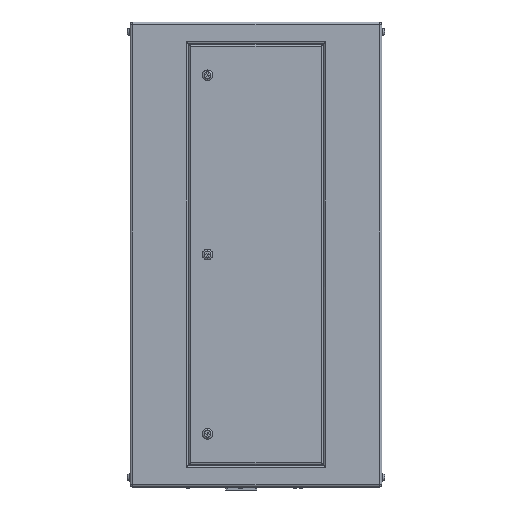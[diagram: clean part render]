
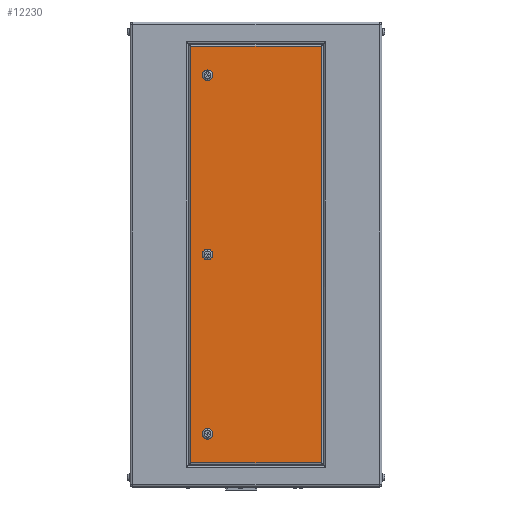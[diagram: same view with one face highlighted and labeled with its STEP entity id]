
A CAD part, left-side view. The second image highlights one B-rep face of the part: STEP entity #12230.
In plain terms, the highlighted planar face has unit normal (-1, 0, 0).
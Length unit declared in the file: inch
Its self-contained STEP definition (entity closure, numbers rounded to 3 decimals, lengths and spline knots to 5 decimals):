
#215 = DIRECTION ( 'NONE',  ( 0., 0., -1. ) ) ;
#285 = LINE ( 'NONE', #8943, #36826 ) ;
#709 = AXIS2_PLACEMENT_3D ( 'NONE', #36921, #37294, #31569 ) ;
#849 = LINE ( 'NONE', #6880, #24059 ) ;
#1114 = DIRECTION ( 'NONE',  ( 0., 0., -1. ) ) ;
#1353 = CARTESIAN_POINT ( 'NONE',  ( -16., 13., -24. ) ) ;
#1438 = CARTESIAN_POINT ( 'NONE',  ( -16., -6.74, -24. ) ) ;
#2791 = CARTESIAN_POINT ( 'NONE',  ( -16., 5., 19.05 ) ) ;
#3150 = ORIENTED_EDGE ( 'NONE', *, *, #20748, .T. ) ;
#3187 = CARTESIAN_POINT ( 'NONE',  ( -16., 5., -0.55 ) ) ;
#3572 = CARTESIAN_POINT ( 'NONE',  ( -16., 5., 18.5 ) ) ;
#3978 = FACE_BOUND ( 'NONE', #27808, .T. ) ;
#4074 = EDGE_CURVE ( 'NONE', #35686, #17961, #25077, .T. ) ;
#6880 = CARTESIAN_POINT ( 'NONE',  ( -16., 6.74, -24. ) ) ;
#7047 = CARTESIAN_POINT ( 'NONE',  ( -16., 5., -19.05 ) ) ;
#7258 = VERTEX_POINT ( 'NONE', #3187 ) ;
#7552 = FACE_OUTER_BOUND ( 'NONE', #18418, .T. ) ;
#7561 = VERTEX_POINT ( 'NONE', #26717 ) ;
#7580 = AXIS2_PLACEMENT_3D ( 'NONE', #1353, #30233, #24742 ) ;
#8943 = CARTESIAN_POINT ( 'NONE',  ( -16., 13., -21.49 ) ) ;
#9982 = AXIS2_PLACEMENT_3D ( 'NONE', #31897, #25646, #20006 ) ;
#10016 = ORIENTED_EDGE ( 'NONE', *, *, #11445, .T. ) ;
#10608 = VECTOR ( 'NONE', #30751, 39.37008 ) ;
#11400 = DIRECTION ( 'NONE',  ( 0., 0., -1. ) ) ;
#11445 = EDGE_CURVE ( 'NONE', #7258, #7561, #18789, .T. ) ;
#11902 = CARTESIAN_POINT ( 'NONE',  ( -16., 5., -18.5 ) ) ;
#12230 = ADVANCED_FACE ( 'NONE', ( #18903, #3978, #21180, #7552 ), #27513, .F. ) ;
#13292 = EDGE_CURVE ( 'NONE', #30053, #33088, #14834, .T. ) ;
#14556 = DIRECTION ( 'NONE',  ( 1., 0., 0. ) ) ;
#14785 = EDGE_CURVE ( 'NONE', #31006, #26268, #285, .T. ) ;
#14834 = CIRCLE ( 'NONE', #33502, 0.55 ) ;
#15066 = CARTESIAN_POINT ( 'NONE',  ( -16., 6.74, -21.49 ) ) ;
#15523 = ORIENTED_EDGE ( 'NONE', *, *, #29998, .T. ) ;
#15626 = LINE ( 'NONE', #1438, #30478 ) ;
#15673 = DIRECTION ( 'NONE',  ( 1., 0., 0. ) ) ;
#17320 = CARTESIAN_POINT ( 'NONE',  ( -16., 6.74, 21.49 ) ) ;
#17392 = ORIENTED_EDGE ( 'NONE', *, *, #32631, .T. ) ;
#17961 = VERTEX_POINT ( 'NONE', #17320 ) ;
#18418 = EDGE_LOOP ( 'NONE', ( #32842, #22288, #30512, #17392 ) ) ;
#18607 = CARTESIAN_POINT ( 'NONE',  ( -16., 5., 17.95 ) ) ;
#18789 = CIRCLE ( 'NONE', #709, 0.55 ) ;
#18903 = FACE_BOUND ( 'NONE', #19692, .T. ) ;
#19646 = CIRCLE ( 'NONE', #9982, 0.55 ) ;
#19692 = EDGE_LOOP ( 'NONE', ( #25012, #3150 ) ) ;
#19786 = AXIS2_PLACEMENT_3D ( 'NONE', #3572, #14556, #23216 ) ;
#20006 = DIRECTION ( 'NONE',  ( 0., 0., -1. ) ) ;
#20119 = CIRCLE ( 'NONE', #33420, 0.55 ) ;
#20275 = DIRECTION ( 'NONE',  ( 1., 0., 0. ) ) ;
#20748 = EDGE_CURVE ( 'NONE', #33088, #30053, #19646, .T. ) ;
#20817 = CIRCLE ( 'NONE', #30456, 0.55 ) ;
#21180 = FACE_BOUND ( 'NONE', #34494, .T. ) ;
#21264 = DIRECTION ( 'NONE',  ( 0., 0., 1. ) ) ;
#21870 = EDGE_CURVE ( 'NONE', #26268, #35686, #15626, .T. ) ;
#22288 = ORIENTED_EDGE ( 'NONE', *, *, #21870, .T. ) ;
#22317 = EDGE_CURVE ( 'NONE', #35308, #28655, #20817, .T. ) ;
#23099 = CARTESIAN_POINT ( 'NONE',  ( -16., 5., 0. ) ) ;
#23216 = DIRECTION ( 'NONE',  ( 0., 0., -1. ) ) ;
#23934 = ORIENTED_EDGE ( 'NONE', *, *, #22317, .T. ) ;
#24059 = VECTOR ( 'NONE', #35638, 39.37008 ) ;
#24353 = CARTESIAN_POINT ( 'NONE',  ( -16., 13., 21.49 ) ) ;
#24492 = ORIENTED_EDGE ( 'NONE', *, *, #33161, .T. ) ;
#24742 = DIRECTION ( 'NONE',  ( 0., 0., -1. ) ) ;
#25012 = ORIENTED_EDGE ( 'NONE', *, *, #13292, .T. ) ;
#25077 = LINE ( 'NONE', #24353, #10608 ) ;
#25646 = DIRECTION ( 'NONE',  ( 1., 0., 0. ) ) ;
#26268 = VERTEX_POINT ( 'NONE', #31257 ) ;
#26717 = CARTESIAN_POINT ( 'NONE',  ( -16., 5., 0.55 ) ) ;
#27513 = PLANE ( 'NONE',  #7580 ) ;
#27570 = CIRCLE ( 'NONE', #19786, 0.55 ) ;
#27808 = EDGE_LOOP ( 'NONE', ( #10016, #15523 ) ) ;
#28073 = CARTESIAN_POINT ( 'NONE',  ( -16., 5., -17.95 ) ) ;
#28655 = VERTEX_POINT ( 'NONE', #2791 ) ;
#29051 = DIRECTION ( 'NONE',  ( 1., 0., 0. ) ) ;
#29998 = EDGE_CURVE ( 'NONE', #7561, #7258, #20119, .T. ) ;
#30053 = VERTEX_POINT ( 'NONE', #7047 ) ;
#30233 = DIRECTION ( 'NONE',  ( 1., 0., 0. ) ) ;
#30456 = AXIS2_PLACEMENT_3D ( 'NONE', #35537, #15673, #1114 ) ;
#30478 = VECTOR ( 'NONE', #21264, 39.37008 ) ;
#30512 = ORIENTED_EDGE ( 'NONE', *, *, #4074, .T. ) ;
#30751 = DIRECTION ( 'NONE',  ( 0., 1., 0. ) ) ;
#30804 = CARTESIAN_POINT ( 'NONE',  ( -16., -6.74, 21.49 ) ) ;
#31006 = VERTEX_POINT ( 'NONE', #15066 ) ;
#31257 = CARTESIAN_POINT ( 'NONE',  ( -16., -6.74, -21.49 ) ) ;
#31569 = DIRECTION ( 'NONE',  ( 0., 0., -1. ) ) ;
#31897 = CARTESIAN_POINT ( 'NONE',  ( -16., 5., -18.5 ) ) ;
#32631 = EDGE_CURVE ( 'NONE', #17961, #31006, #849, .T. ) ;
#32842 = ORIENTED_EDGE ( 'NONE', *, *, #14785, .T. ) ;
#33088 = VERTEX_POINT ( 'NONE', #28073 ) ;
#33161 = EDGE_CURVE ( 'NONE', #28655, #35308, #27570, .T. ) ;
#33420 = AXIS2_PLACEMENT_3D ( 'NONE', #23099, #20275, #11400 ) ;
#33502 = AXIS2_PLACEMENT_3D ( 'NONE', #11902, #29051, #215 ) ;
#34494 = EDGE_LOOP ( 'NONE', ( #23934, #24492 ) ) ;
#34873 = DIRECTION ( 'NONE',  ( 0., -1., 0. ) ) ;
#35308 = VERTEX_POINT ( 'NONE', #18607 ) ;
#35537 = CARTESIAN_POINT ( 'NONE',  ( -16., 5., 18.5 ) ) ;
#35638 = DIRECTION ( 'NONE',  ( 0., 0., -1. ) ) ;
#35686 = VERTEX_POINT ( 'NONE', #30804 ) ;
#36826 = VECTOR ( 'NONE', #34873, 39.37008 ) ;
#36921 = CARTESIAN_POINT ( 'NONE',  ( -16., 5., 0. ) ) ;
#37294 = DIRECTION ( 'NONE',  ( 1., 0., 0. ) ) ;
